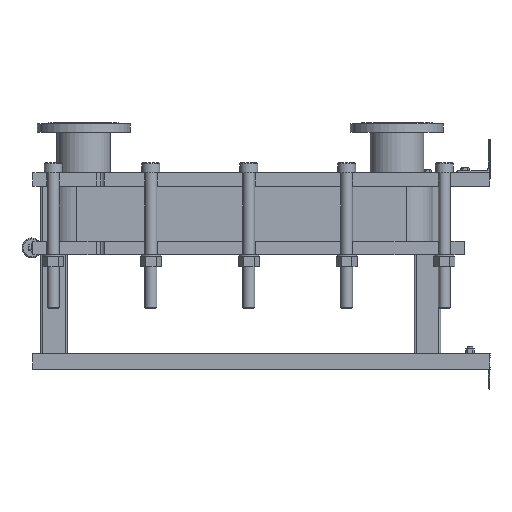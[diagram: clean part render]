
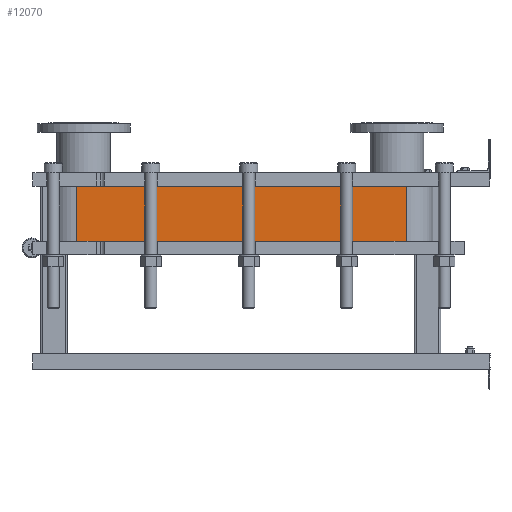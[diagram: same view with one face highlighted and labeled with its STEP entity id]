
A CAD part, left-side view. The second image highlights one B-rep face of the part: STEP entity #12070.
In plain terms, the highlighted planar face has unit normal (-1, 0, 0).
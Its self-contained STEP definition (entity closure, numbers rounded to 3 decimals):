
#1064=LINE('',#21140,#2164);
#1065=LINE('',#21144,#2165);
#1066=LINE('',#21146,#2166);
#1067=LINE('',#21147,#2167);
#2164=VECTOR('',#15790,10.);
#2165=VECTOR('',#15795,10.);
#2166=VECTOR('',#15796,10.);
#2167=VECTOR('',#15797,10.);
#3304=FACE_OUTER_BOUND('',#4091,.T.);
#4091=EDGE_LOOP('',(#9793,#9794,#9795,#9796));
#5677=VERTEX_POINT('',#21137);
#5678=VERTEX_POINT('',#21139);
#5679=VERTEX_POINT('',#21143);
#5680=VERTEX_POINT('',#21145);
#7118=EDGE_CURVE('',#5678,#5677,#1064,.T.);
#7120=EDGE_CURVE('',#5677,#5679,#1065,.T.);
#7121=EDGE_CURVE('',#5680,#5679,#1066,.T.);
#7122=EDGE_CURVE('',#5680,#5678,#1067,.T.);
#9793=ORIENTED_EDGE('',*,*,#7120,.T.);
#9794=ORIENTED_EDGE('',*,*,#7121,.F.);
#9795=ORIENTED_EDGE('',*,*,#7122,.T.);
#9796=ORIENTED_EDGE('',*,*,#7118,.T.);
#11441=PLANE('',#13191);
#12070=ADVANCED_FACE('',(#3304),#11441,.T.);
#13191=AXIS2_PLACEMENT_3D('',#21142,#15793,#15794);
#15790=DIRECTION('',(0.,0.,-1.));
#15793=DIRECTION('center_axis',(-1.,0.,0.));
#15794=DIRECTION('ref_axis',(0.,1.,0.));
#15795=DIRECTION('',(0.,-1.,0.));
#15796=DIRECTION('',(0.,0.,-1.));
#15797=DIRECTION('',(0.,1.,0.));
#21137=CARTESIAN_POINT('',(-248.152,1243.818,-165.6));
#21139=CARTESIAN_POINT('',(-248.152,1243.818,0.));
#21140=CARTESIAN_POINT('',(-248.152,1243.818,0.));
#21142=CARTESIAN_POINT('Origin',(-248.152,251.818,0.));
#21143=CARTESIAN_POINT('',(-248.152,251.818,-165.6));
#21144=CARTESIAN_POINT('',(-248.152,499.818,-165.6));
#21145=CARTESIAN_POINT('',(-248.152,251.818,0.));
#21146=CARTESIAN_POINT('',(-248.152,251.818,0.));
#21147=CARTESIAN_POINT('',(-248.152,251.818,0.));
